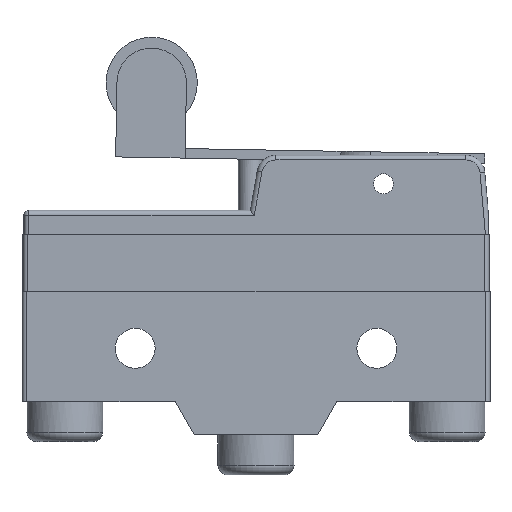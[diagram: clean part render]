
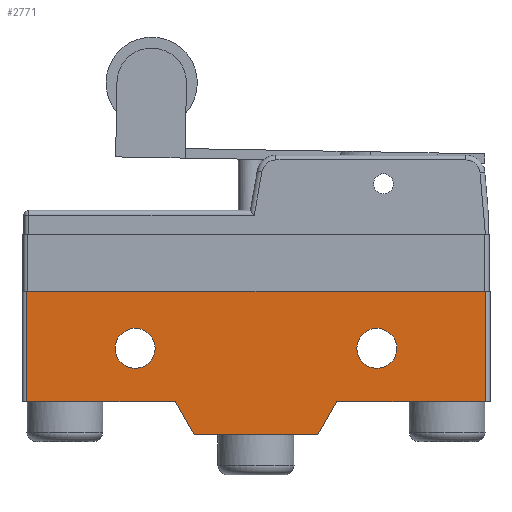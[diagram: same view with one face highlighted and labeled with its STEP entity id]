
A CAD part, left-side view. The second image highlights one B-rep face of the part: STEP entity #2771.
In plain terms, the highlighted planar face has unit normal (-1, 0, 0).
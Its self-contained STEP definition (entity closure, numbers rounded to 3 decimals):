
#150=FACE_BOUND('',#574,.T.);
#151=FACE_BOUND('',#575,.T.);
#248=PLANE('',#3029);
#399=FACE_OUTER_BOUND('',#573,.T.);
#573=EDGE_LOOP('',(#2525,#2526,#2527,#2528,#2529,#2530,#2531,#2532));
#574=EDGE_LOOP('',(#2533));
#575=EDGE_LOOP('',(#2534));
#585=LINE('',#3815,#846);
#590=LINE('',#3828,#851);
#606=LINE('',#3881,#867);
#611=LINE('',#3894,#872);
#836=LINE('',#4677,#1097);
#839=LINE('',#4683,#1100);
#842=LINE('',#4688,#1103);
#843=LINE('',#4689,#1104);
#846=VECTOR('',#3040,11.6);
#851=VECTOR('',#3051,15.6);
#867=VECTOR('',#3101,15.6);
#872=VECTOR('',#3114,11.6);
#1097=VECTOR('',#3787,4.031);
#1100=VECTOR('',#3792,4.031);
#1103=VECTOR('',#3797,13.);
#1104=VECTOR('',#3798,48.2);
#1194=CIRCLE('',#3005,2.1);
#1196=CIRCLE('',#3008,2.1);
#1200=VERTEX_POINT('',#3812);
#1201=VERTEX_POINT('',#3814);
#1206=VERTEX_POINT('',#3826);
#1225=VERTEX_POINT('',#3878);
#1226=VERTEX_POINT('',#3880);
#1230=VERTEX_POINT('',#3892);
#1436=VERTEX_POINT('',#4631);
#1438=VERTEX_POINT('',#4636);
#1444=VERTEX_POINT('',#4676);
#1446=VERTEX_POINT('',#4682);
#1449=EDGE_CURVE('',#1200,#1201,#585,.T.);
#1456=EDGE_CURVE('',#1200,#1206,#590,.T.);
#1481=EDGE_CURVE('',#1226,#1225,#606,.T.);
#1488=EDGE_CURVE('',#1230,#1225,#611,.T.);
#1797=EDGE_CURVE('',#1436,#1436,#1194,.T.);
#1799=EDGE_CURVE('',#1438,#1438,#1196,.T.);
#1816=EDGE_CURVE('',#1206,#1444,#836,.T.);
#1819=EDGE_CURVE('',#1446,#1226,#839,.T.);
#1822=EDGE_CURVE('',#1444,#1446,#842,.T.);
#1823=EDGE_CURVE('',#1230,#1201,#843,.T.);
#2525=ORIENTED_EDGE('',*,*,#1449,.F.);
#2526=ORIENTED_EDGE('',*,*,#1456,.T.);
#2527=ORIENTED_EDGE('',*,*,#1816,.T.);
#2528=ORIENTED_EDGE('',*,*,#1822,.T.);
#2529=ORIENTED_EDGE('',*,*,#1819,.T.);
#2530=ORIENTED_EDGE('',*,*,#1481,.T.);
#2531=ORIENTED_EDGE('',*,*,#1488,.F.);
#2532=ORIENTED_EDGE('',*,*,#1823,.T.);
#2533=ORIENTED_EDGE('',*,*,#1797,.T.);
#2534=ORIENTED_EDGE('',*,*,#1799,.T.);
#2771=ADVANCED_FACE('',(#399,#150,#151),#248,.F.);
#3005=AXIS2_PLACEMENT_3D('',#4632,#3727,#3728);
#3008=AXIS2_PLACEMENT_3D('',#4637,#3733,#3734);
#3029=AXIS2_PLACEMENT_3D('',#4687,#3795,#3796);
#3040=DIRECTION('',(0.,0.,1.));
#3051=DIRECTION('',(0.,-1.,0.));
#3101=DIRECTION('',(0.,-1.,0.));
#3114=DIRECTION('',(0.,0.,-1.));
#3727=DIRECTION('center_axis',(1.,0.,0.));
#3728=DIRECTION('ref_axis',(0.,0.,1.));
#3733=DIRECTION('center_axis',(1.,0.,0.));
#3734=DIRECTION('ref_axis',(0.,0.,1.));
#3787=DIRECTION('',(0.,-0.496,-0.868));
#3792=DIRECTION('',(0.,-0.496,0.868));
#3795=DIRECTION('center_axis',(1.,0.,0.));
#3796=DIRECTION('ref_axis',(0.,0.,-1.));
#3797=DIRECTION('',(0.,-1.,0.));
#3798=DIRECTION('',(0.,1.,0.));
#3812=CARTESIAN_POINT('',(0.,24.1,3.5));
#3814=CARTESIAN_POINT('',(0.,24.1,15.1));
#3815=CARTESIAN_POINT('',(0.,24.1,3.775));
#3826=CARTESIAN_POINT('',(0.,8.5,3.5));
#3828=CARTESIAN_POINT('',(0.,4.25,3.5));
#3878=CARTESIAN_POINT('',(0.,-24.1,3.5));
#3880=CARTESIAN_POINT('',(0.,-8.5,3.5));
#3881=CARTESIAN_POINT('',(0.,-12.3,3.5));
#3892=CARTESIAN_POINT('',(0.,-24.1,15.1));
#3894=CARTESIAN_POINT('',(0.,-24.1,11.325));
#4631=CARTESIAN_POINT('',(0.,-12.7,7.));
#4632=CARTESIAN_POINT('Origin',(0.,-12.7,9.1));
#4636=CARTESIAN_POINT('',(0.,12.7,7.));
#4637=CARTESIAN_POINT('Origin',(0.,12.7,9.1));
#4676=CARTESIAN_POINT('',(0.,6.5,0.));
#4677=CARTESIAN_POINT('',(0.,7.326,1.446));
#4682=CARTESIAN_POINT('',(0.,-6.5,0.));
#4683=CARTESIAN_POINT('',(0.,-8.326,3.196));
#4687=CARTESIAN_POINT('Origin',(0.,0.,7.55));
#4688=CARTESIAN_POINT('',(0.,24.6,0.));
#4689=CARTESIAN_POINT('',(0.,-24.6,15.1));
